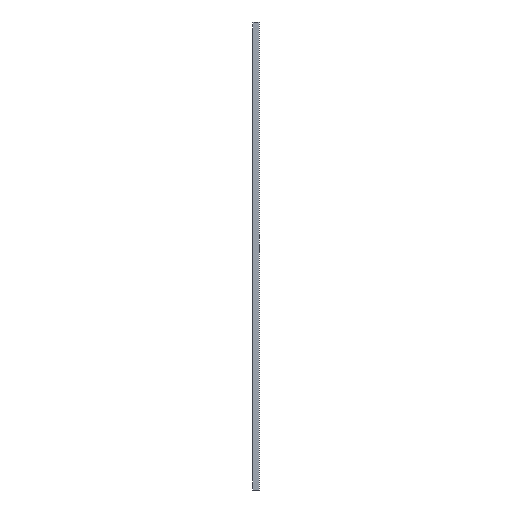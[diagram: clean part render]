
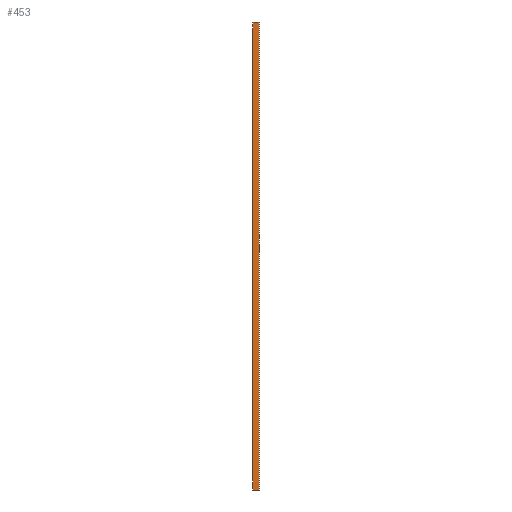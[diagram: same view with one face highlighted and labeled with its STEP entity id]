
A CAD part, left-side view. The second image highlights one B-rep face of the part: STEP entity #453.
In plain terms, the highlighted planar face has unit normal (-1, 0, 0).
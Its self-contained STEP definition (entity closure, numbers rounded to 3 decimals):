
#77 = CARTESIAN_POINT ( 'NONE',  ( -8., 3.2, 879. ) ) ;
#125 = CARTESIAN_POINT ( 'NONE',  ( -8., 12.5, 879. ) ) ;
#142 = VECTOR ( 'NONE', #551, 1000. ) ;
#153 = LINE ( 'NONE', #1450, #175 ) ;
#175 = VECTOR ( 'NONE', #1232, 1000. ) ;
#177 = EDGE_CURVE ( 'NONE', #1189, #664, #544, .T. ) ;
#178 = CARTESIAN_POINT ( 'NONE',  ( -8., 0., 0. ) ) ;
#185 = DIRECTION ( 'NONE',  ( 0., -1., 0. ) ) ;
#191 = LINE ( 'NONE', #1120, #338 ) ;
#211 = CARTESIAN_POINT ( 'NONE',  ( -8., 9.3, 879. ) ) ;
#213 = LINE ( 'NONE', #459, #1236 ) ;
#257 = ORIENTED_EDGE ( 'NONE', *, *, #956, .F. ) ;
#318 = LINE ( 'NONE', #803, #142 ) ;
#338 = VECTOR ( 'NONE', #536, 1000. ) ;
#341 = DIRECTION ( 'NONE',  ( -1., 0., 0. ) ) ;
#353 = DIRECTION ( 'NONE',  ( 0., 1., 0. ) ) ;
#362 = EDGE_CURVE ( 'NONE', #1327, #664, #783, .T. ) ;
#366 = VECTOR ( 'NONE', #353, 1000. ) ;
#370 = CARTESIAN_POINT ( 'NONE',  ( -8., 0., 0. ) ) ;
#453 = ADVANCED_FACE ( 'NONE', ( #802 ), #683, .T. ) ;
#459 = CARTESIAN_POINT ( 'NONE',  ( -8., 12.5, 879. ) ) ;
#488 = VECTOR ( 'NONE', #185, 1000. ) ;
#536 = DIRECTION ( 'NONE',  ( 0., 1., 0. ) ) ;
#544 = LINE ( 'NONE', #785, #1276 ) ;
#551 = DIRECTION ( 'NONE',  ( 0., 1., 0. ) ) ;
#579 = VERTEX_POINT ( 'NONE', #125 ) ;
#618 = CARTESIAN_POINT ( 'NONE',  ( -8., 9.3, 0. ) ) ;
#659 = CARTESIAN_POINT ( 'NONE',  ( -8., 0., 0. ) ) ;
#664 = VERTEX_POINT ( 'NONE', #659 ) ;
#683 = PLANE ( 'NONE',  #883 ) ;
#695 = DIRECTION ( 'NONE',  ( 0., 0., -1. ) ) ;
#713 = ORIENTED_EDGE ( 'NONE', *, *, #177, .F. ) ;
#714 = ORIENTED_EDGE ( 'NONE', *, *, #362, .T. ) ;
#734 = CARTESIAN_POINT ( 'NONE',  ( -8., 12.5, 0. ) ) ;
#758 = VERTEX_POINT ( 'NONE', #77 ) ;
#783 = LINE ( 'NONE', #178, #488 ) ;
#785 = CARTESIAN_POINT ( 'NONE',  ( -8., 0., 879. ) ) ;
#802 = FACE_OUTER_BOUND ( 'NONE', #1183, .T. ) ;
#803 = CARTESIAN_POINT ( 'NONE',  ( -8., 0., 879. ) ) ;
#816 = LINE ( 'NONE', #1286, #366 ) ;
#817 = ORIENTED_EDGE ( 'NONE', *, *, #1519, .F. ) ;
#857 = DIRECTION ( 'NONE',  ( 0., 1., 0. ) ) ;
#883 = AXIS2_PLACEMENT_3D ( 'NONE', #1162, #341, #1038 ) ;
#934 = EDGE_CURVE ( 'NONE', #1401, #579, #816, .T. ) ;
#936 = EDGE_CURVE ( 'NONE', #579, #938, #213, .T. ) ;
#938 = VERTEX_POINT ( 'NONE', #734 ) ;
#956 = EDGE_CURVE ( 'NONE', #1515, #938, #1445, .T. ) ;
#1029 = CARTESIAN_POINT ( 'NONE',  ( -8., 0., 879. ) ) ;
#1038 = DIRECTION ( 'NONE',  ( 0., 0., 1. ) ) ;
#1090 = VECTOR ( 'NONE', #857, 1000. ) ;
#1120 = CARTESIAN_POINT ( 'NONE',  ( -8., 0., 0. ) ) ;
#1159 = ORIENTED_EDGE ( 'NONE', *, *, #1169, .F. ) ;
#1162 = CARTESIAN_POINT ( 'NONE',  ( -8., 0., 879. ) ) ;
#1169 = EDGE_CURVE ( 'NONE', #1327, #1515, #191, .T. ) ;
#1183 = EDGE_LOOP ( 'NONE', ( #1159, #714, #713, #817, #1540, #1332, #1333, #257 ) ) ;
#1189 = VERTEX_POINT ( 'NONE', #1029 ) ;
#1232 = DIRECTION ( 'NONE',  ( 0., -1., 0. ) ) ;
#1236 = VECTOR ( 'NONE', #695, 1000. ) ;
#1255 = DIRECTION ( 'NONE',  ( 0., 0., -1. ) ) ;
#1276 = VECTOR ( 'NONE', #1255, 1000. ) ;
#1277 = EDGE_CURVE ( 'NONE', #758, #1401, #318, .T. ) ;
#1286 = CARTESIAN_POINT ( 'NONE',  ( -8., 12.5, 879. ) ) ;
#1327 = VERTEX_POINT ( 'NONE', #1494 ) ;
#1332 = ORIENTED_EDGE ( 'NONE', *, *, #934, .T. ) ;
#1333 = ORIENTED_EDGE ( 'NONE', *, *, #936, .T. ) ;
#1401 = VERTEX_POINT ( 'NONE', #211 ) ;
#1445 = LINE ( 'NONE', #370, #1090 ) ;
#1450 = CARTESIAN_POINT ( 'NONE',  ( -8., 0., 879. ) ) ;
#1494 = CARTESIAN_POINT ( 'NONE',  ( -8., 3.2, 0. ) ) ;
#1515 = VERTEX_POINT ( 'NONE', #618 ) ;
#1519 = EDGE_CURVE ( 'NONE', #758, #1189, #153, .T. ) ;
#1540 = ORIENTED_EDGE ( 'NONE', *, *, #1277, .T. ) ;
